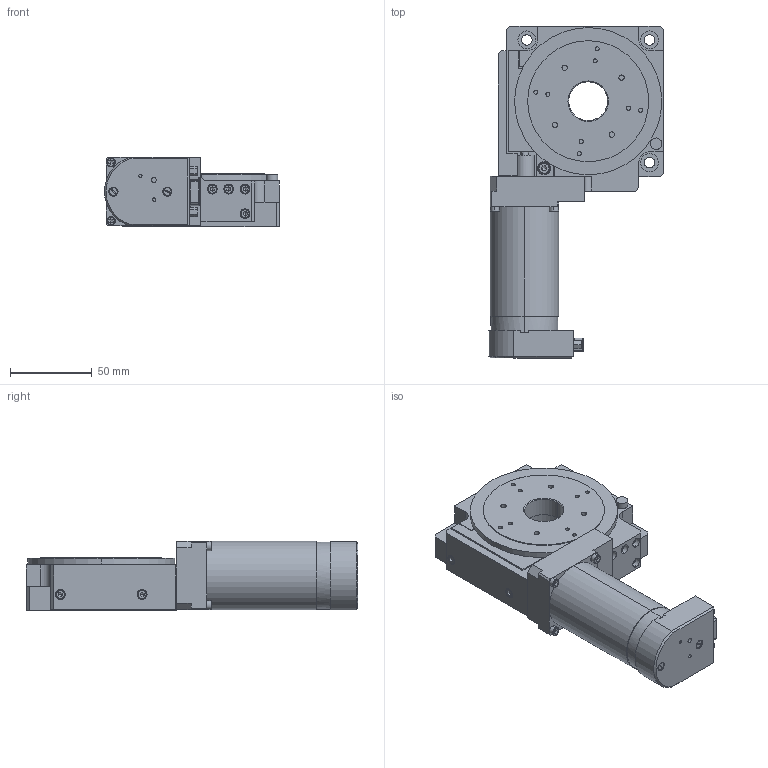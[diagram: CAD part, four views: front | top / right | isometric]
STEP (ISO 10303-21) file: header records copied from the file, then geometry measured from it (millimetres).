
FILE_DESCRIPTION (( 'STEP AP203' ), '1' );
FILE_NAME ('8MR191-1-PHYTRON.STEP', '2007-08-31T06:26:08', ( 'STANDA' ), ( '' ), 'SwSTEP 2.0', 'SolidWorks 2003240', '' );
FILE_SCHEMA (( 'CONFIG_CONTROL_DESIGN' ));
Length unit declared in the file: millimetre
Products named in the file (1): 8MR191-1-PHYTRON
Bounding box: 106.92 x 203 x 42.5 mm (x, y, z)
Volume: 427840.3 mm3; surface area: 75029.7 mm2
Topology: 1 solids, 38 shells, 958 faces, 2280 edges, 1444 vertices
Faces by surface type: cylinder 421, plane 387, cone 90, bspline 60
Entity records: 30298 total; most frequent: CARTESIAN_POINT 8137, DIRECTION 4708, ORIENTED_EDGE 4436, EDGE_CURVE 2218, AXIS2_PLACEMENT_3D 1806, VERTEX_POINT 1444, EDGE_LOOP 1118, VECTOR 1096
